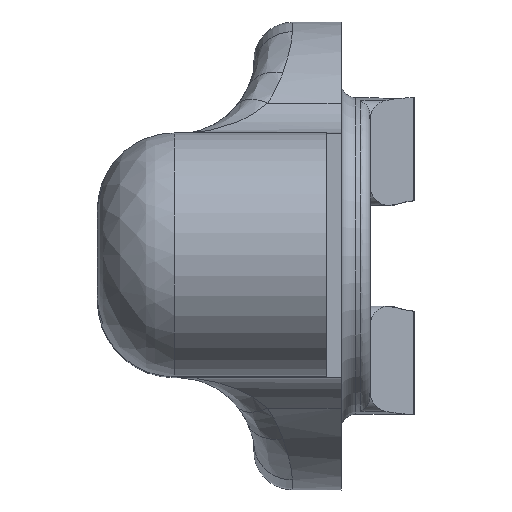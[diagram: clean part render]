
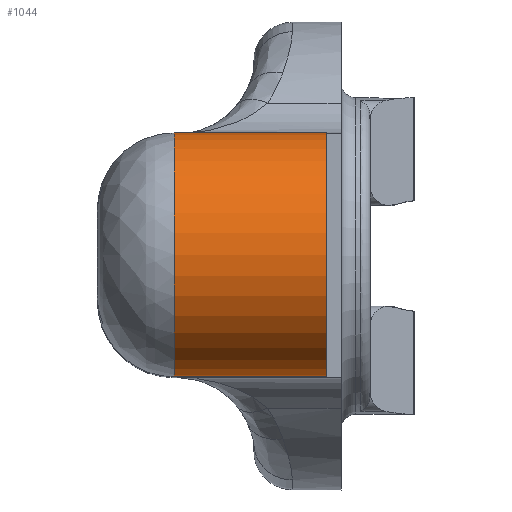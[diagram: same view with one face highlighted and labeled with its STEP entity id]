
A CAD part, top view. The second image highlights one B-rep face of the part: STEP entity #1044.
In plain terms, the highlighted cylindrical face has radius 3.175 mm (diameter 6.35 mm), a partial arc.
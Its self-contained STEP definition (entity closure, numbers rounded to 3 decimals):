
#112=FACE_OUTER_BOUND('',#172,.T.);
#172=EDGE_LOOP('',(#892,#893,#894,#895));
#233=LINE('',#2106,#295);
#239=LINE('',#2117,#301);
#295=VECTOR('',#1436,2.794);
#301=VECTOR('',#1444,2.794);
#358=CIRCLE('',#1171,3.175);
#361=CIRCLE('',#1177,3.175);
#480=VERTEX_POINT('',#2069);
#481=VERTEX_POINT('',#2087);
#483=VERTEX_POINT('',#2105);
#487=VERTEX_POINT('',#2116);
#623=EDGE_CURVE('',#481,#480,#358,.T.);
#627=EDGE_CURVE('',#483,#480,#233,.T.);
#633=EDGE_CURVE('',#487,#481,#239,.T.);
#634=EDGE_CURVE('',#487,#483,#361,.T.);
#892=ORIENTED_EDGE('',*,*,#623,.F.);
#893=ORIENTED_EDGE('',*,*,#633,.F.);
#894=ORIENTED_EDGE('',*,*,#634,.T.);
#895=ORIENTED_EDGE('',*,*,#627,.T.);
#995=CYLINDRICAL_SURFACE('',#1176,3.175);
#1044=ADVANCED_FACE('',(#112),#995,.T.);
#1171=AXIS2_PLACEMENT_3D('',#2089,#1425,#1426);
#1176=AXIS2_PLACEMENT_3D('',#2115,#1442,#1443);
#1177=AXIS2_PLACEMENT_3D('',#2118,#1445,#1446);
#1425=DIRECTION('center_axis',(-1.,0.,0.));
#1426=DIRECTION('ref_axis',(0.,0.,1.));
#1436=DIRECTION('',(-1.,0.,0.));
#1442=DIRECTION('center_axis',(-1.,0.,0.));
#1443=DIRECTION('ref_axis',(0.,1.,0.));
#1444=DIRECTION('',(-1.,0.,0.));
#1445=DIRECTION('center_axis',(-1.,0.,0.));
#1446=DIRECTION('ref_axis',(0.,-1.,0.));
#2069=CARTESIAN_POINT('',(-23.654,3.175,17.399));
#2087=CARTESIAN_POINT('',(-23.654,-3.175,17.399));
#2089=CARTESIAN_POINT('Origin',(-23.654,0.,17.399));
#2105=CARTESIAN_POINT('',(-19.685,3.175,17.399));
#2106=CARTESIAN_POINT('',(-19.685,3.175,17.399));
#2115=CARTESIAN_POINT('Origin',(-19.304,0.,17.399));
#2116=CARTESIAN_POINT('',(-19.685,-3.175,17.399));
#2117=CARTESIAN_POINT('',(-19.685,-3.175,17.399));
#2118=CARTESIAN_POINT('Origin',(-19.685,0.,17.399));
